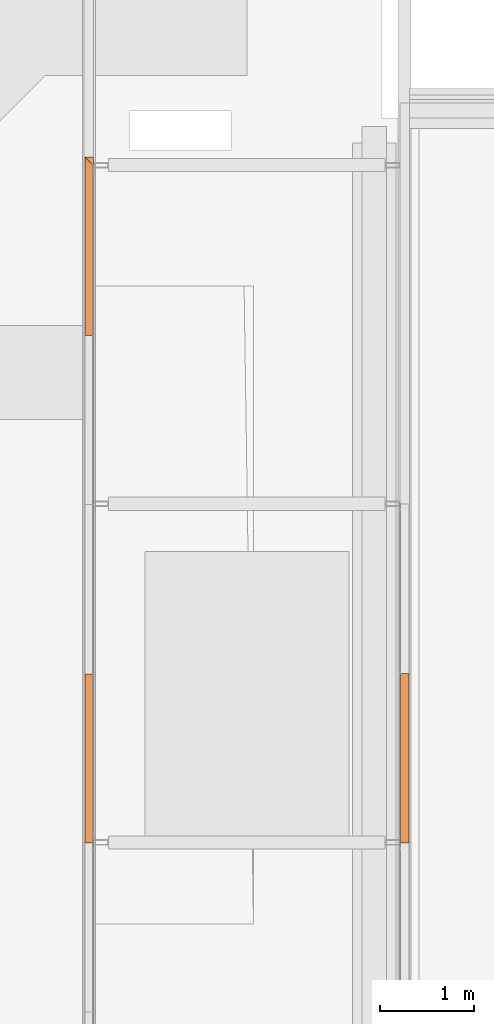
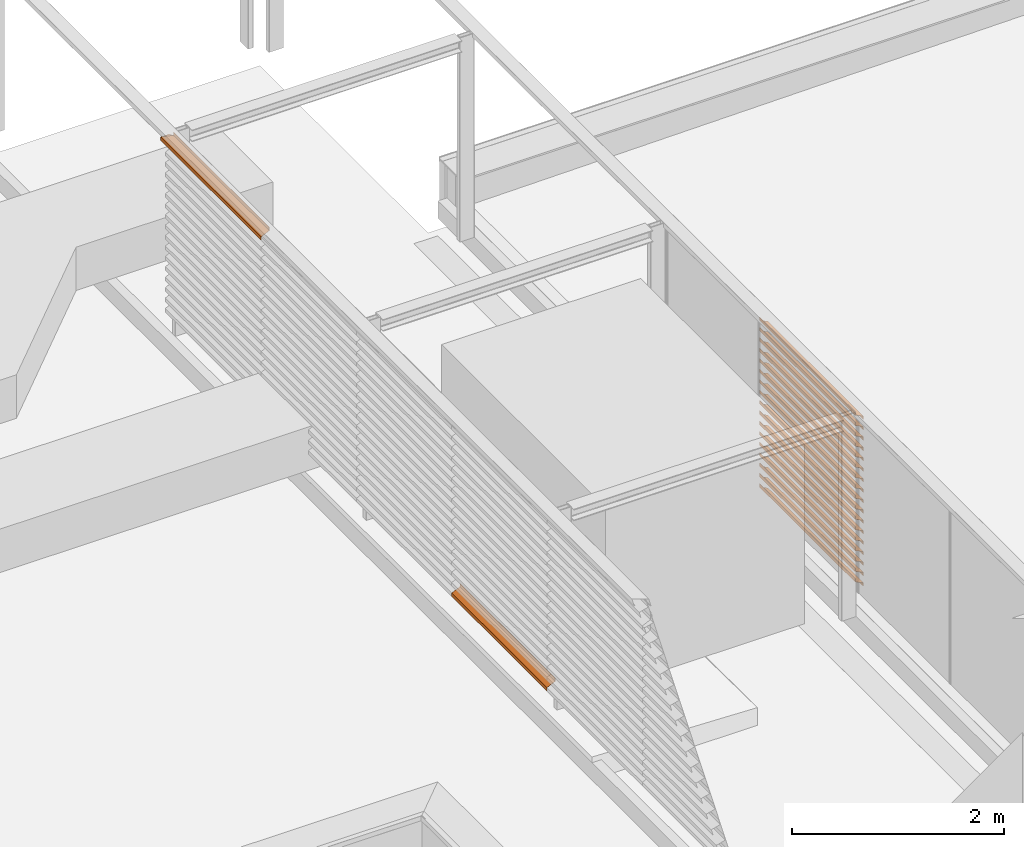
# One storey, part 31 of 32: 19 proxies.
"""IFC2X3 building model written with IfcOpenShell, lengths in millimetres."""

from ifc_helpers import new_model, entity, si_unit, converted_unit, derived_unit, direction, frame, origin, place, context, subcontext, project, spatial, faceted_brep, type_object, element, save


model = new_model("IFC2X3")

# Units and contexts
model_context = context("Model", 3, precision=0.01, world=origin(), true_north=direction((6.123031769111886e-17, 1.0)))
body_context = subcontext(model_context, "Body", "Model", "MODEL_VIEW")
ifc_project = project(units=[si_unit("LENGTHUNIT", "METRE", prefix="MILLI"), si_unit("AREAUNIT", "SQUARE_METRE"), si_unit("VOLUMEUNIT", "CUBIC_METRE"), converted_unit("PLANEANGLEUNIT", "DEGREE", entity("IfcRatioMeasure", 0.017453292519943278), si_unit("PLANEANGLEUNIT", "RADIAN"), dimensions=[0, 0, 0, 0, 0, 0, 0]), si_unit("MASSUNIT", "GRAM", prefix="KILO"), derived_unit("MASSDENSITYUNIT", [(si_unit("MASSUNIT", "GRAM", prefix="KILO"), 1), (si_unit("LENGTHUNIT", "METRE"), -3)]), derived_unit("IONCONCENTRATIONUNIT", [(si_unit("MASSUNIT", "GRAM", prefix="KILO"), 1), (si_unit("LENGTHUNIT", "METRE"), -3)]), derived_unit("MOMENTOFINERTIAUNIT", [(si_unit("LENGTHUNIT", "METRE"), 4)]), si_unit("TIMEUNIT", "SECOND"), si_unit("FREQUENCYUNIT", "HERTZ"), si_unit("THERMODYNAMICTEMPERATUREUNIT", "DEGREE_CELSIUS"), derived_unit("THERMALTRANSMITTANCEUNIT", [(si_unit("MASSUNIT", "GRAM", prefix="KILO"), 1), (si_unit("THERMODYNAMICTEMPERATUREUNIT", "KELVIN"), -1), (si_unit("TIMEUNIT", "SECOND"), -3)]), derived_unit("THERMALCONDUCTANCEUNIT", [(si_unit("MASSUNIT", "GRAM", prefix="KILO"), 1), (si_unit("THERMODYNAMICTEMPERATUREUNIT", "KELVIN"), -1), (si_unit("TIMEUNIT", "SECOND"), -3), (si_unit("LENGTHUNIT", "METRE"), 1)]), derived_unit("VOLUMETRICFLOWRATEUNIT", [(si_unit("LENGTHUNIT", "METRE"), 3), (si_unit("TIMEUNIT", "SECOND"), -1)]), derived_unit("MASSFLOWRATEUNIT", [(si_unit("MASSUNIT", "GRAM", prefix="KILO"), 1), (si_unit("TIMEUNIT", "SECOND"), -1)]), derived_unit("ROTATIONALFREQUENCYUNIT", [(si_unit("TIMEUNIT", "SECOND"), -1)]), si_unit("ELECTRICCURRENTUNIT", "AMPERE"), si_unit("ELECTRICVOLTAGEUNIT", "VOLT"), si_unit("POWERUNIT", "WATT"), si_unit("FORCEUNIT", "NEWTON", prefix="KILO"), si_unit("ILLUMINANCEUNIT", "LUX"), si_unit("LUMINOUSFLUXUNIT", "LUMEN"), si_unit("LUMINOUSINTENSITYUNIT", "CANDELA"), derived_unit("USERDEFINED", [(si_unit("MASSUNIT", "GRAM", prefix="KILO"), -1), (si_unit("LENGTHUNIT", "METRE"), -2), (si_unit("TIMEUNIT", "SECOND"), 3), (si_unit("LUMINOUSFLUXUNIT", "LUMEN"), 1)]), derived_unit("USERDEFINED", [(si_unit("MASSUNIT", "GRAM", prefix="KILO"), 1), (si_unit("TIMEUNIT", "SECOND"), -3), (si_unit("LENGTHUNIT", "METRE"), 3), (si_unit("ELECTRICCURRENTUNIT", "AMPERE"), -2)]), derived_unit("SOUNDPOWERUNIT", [(si_unit("MASSUNIT", "GRAM", prefix="KILO"), 1), (si_unit("TIMEUNIT", "SECOND"), -3), (si_unit("LENGTHUNIT", "METRE"), 2)]), derived_unit("SOUNDPRESSUREUNIT", [(si_unit("MASSUNIT", "GRAM", prefix="KILO"), 1), (si_unit("LENGTHUNIT", "METRE"), -1), (si_unit("TIMEUNIT", "SECOND"), -2)]), derived_unit("LINEARVELOCITYUNIT", [(si_unit("LENGTHUNIT", "METRE"), 1), (si_unit("TIMEUNIT", "SECOND"), -1)]), si_unit("PRESSUREUNIT", "PASCAL"), derived_unit("USERDEFINED", [(si_unit("MASSUNIT", "GRAM", prefix="KILO"), 1), (si_unit("LENGTHUNIT", "METRE"), -2), (si_unit("TIMEUNIT", "SECOND"), -2)]), derived_unit("LINEARFORCEUNIT", [(si_unit("MASSUNIT", "GRAM", prefix="KILO"), 1), (si_unit("TIMEUNIT", "SECOND"), -2)]), derived_unit("PLANARFORCEUNIT", [(si_unit("MASSUNIT", "GRAM", prefix="KILO"), 1), (si_unit("LENGTHUNIT", "METRE"), -1), (si_unit("TIMEUNIT", "SECOND"), -2)]), derived_unit("SPECIFICHEATCAPACITYUNIT", [(si_unit("THERMODYNAMICTEMPERATUREUNIT", "KELVIN"), -1), (si_unit("LENGTHUNIT", "METRE"), 2), (si_unit("TIMEUNIT", "SECOND"), -2)]), derived_unit("HEATINGVALUEUNIT", [(si_unit("LENGTHUNIT", "METRE"), 2), (si_unit("TIMEUNIT", "SECOND"), -2)]), derived_unit("VAPORPERMEABILITYUNIT", [(si_unit("LENGTHUNIT", "METRE"), -1), (si_unit("TIMEUNIT", "SECOND"), 1)]), derived_unit("DYNAMICVISCOSITYUNIT", [(si_unit("MASSUNIT", "GRAM", prefix="KILO"), 1), (si_unit("TIMEUNIT", "SECOND"), -1), (si_unit("LENGTHUNIT", "METRE"), -1)]), derived_unit("THERMALEXPANSIONCOEFFICIENTUNIT", [(si_unit("THERMODYNAMICTEMPERATUREUNIT", "KELVIN"), -1)]), derived_unit("MODULUSOFELASTICITYUNIT", [(si_unit("MASSUNIT", "GRAM", prefix="KILO"), 1), (si_unit("LENGTHUNIT", "METRE"), -1), (si_unit("TIMEUNIT", "SECOND"), -2)]), derived_unit("ISOTHERMALMOISTURECAPACITYUNIT", [(si_unit("LENGTHUNIT", "METRE"), 3), (si_unit("MASSUNIT", "GRAM", prefix="KILO"), -1)]), derived_unit("MOISTUREDIFFUSIVITYUNIT", [(si_unit("TIMEUNIT", "SECOND"), -1), (si_unit("LENGTHUNIT", "METRE"), 2)])], contexts=[model_context])

# Site, building, storey
site_placement = place(None, frame((0.0, 300.0, 0.0)))
site = spatial("IfcSite", under=ifc_project, at=site_placement, Name="<Kadastrale nummers>", CompositionType="ELEMENT")
building_placement = place(site_placement, origin())
building = spatial("IfcBuilding", under=site, at=building_placement, CompositionType="ELEMENT")
storey_placement = place(building_placement, frame((0.0, 0.0, 7150.000035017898)))
storey = spatial("IfcBuildingStorey", under=building, at=storey_placement, Name="02 tweede verdieping", CompositionType="ELEMENT", Elevation=7150.000035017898)

# Proxies
building_element_proxy_type_1 = type_object("IfcBuildingElementProxyType", Name="6287125", PredefinedType="NOTDEFINED")
proxy_1_placement = place(storey_placement, frame((38322.0, 44387.49999984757, 2420.0)))
element("IfcBuildingElementProxy", 1, at=proxy_1_placement, inside=storey, type_object=building_element_proxy_type_1, Name="6287125", context=body_context, shape_type="Brep", body=[
    faceted_brep([(0.0, 0.0, 40.0), (0.0, 0.0, 0.0), (2.0, 0.0, 1.3490170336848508), (2.0, 0.0, 38.725859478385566), (90.0, 0.0, 79.7609333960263), (90.0, 0.0, 120.0), (88.0, 0.0, 120.0), (88.0, 0.0, 81.03507391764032), (88.0, 1809.500000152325, 81.03507391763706), (0.0, 1897.5000001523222, 40.0), (88.0, 1809.5000001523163, 120.0), (90.0, 1807.5000001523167, 120.0), (90.0, 1807.5000001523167, 79.7609333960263), (2.0, 1895.5000001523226, 38.725859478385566), (2.0, 1895.5000001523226, 1.3490170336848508), (0.0, 1897.5000001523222, 0.0), (91.0, 1897.5000001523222, 40.0), (91.0, 1809.5000001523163, 81.0350739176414), (91.0, 1809.5000001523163, 120.0), (91.0, 1807.5000001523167, 120.0), (91.0, 1807.5000001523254, 79.76093339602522), (91.0, 1895.5000001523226, 38.72585947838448), (91.0, 1895.5000001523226, 1.3490170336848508), (91.0, 1897.5000001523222, 0.0)], [[[0, 1, 2, 3, 4, 5, 6, 7]], [[0, 7, 8, 9]], [[7, 6, 10, 8]], [[6, 5, 11, 10]], [[5, 4, 12, 11]], [[4, 3, 13, 12]], [[3, 2, 14, 13]], [[2, 1, 15, 14]], [[1, 0, 9, 15]], [[16, 17, 18, 19, 20, 21, 22, 23]], [[15, 9, 16, 23]], [[14, 15, 23, 22]], [[13, 14, 22, 21]], [[12, 13, 21, 20]], [[11, 12, 20, 19]], [[10, 11, 19, 18]], [[8, 10, 18, 17]], [[9, 8, 17, 16]]]),
])
building_element_proxy_type_2 = type_object("IfcBuildingElementProxyType", Name="6287239", PredefinedType="NOTDEFINED")
proxy_2_placement = place(storey_placement, frame((38322.0, 38995.0, 500.0)))
element("IfcBuildingElementProxy", 2, at=proxy_2_placement, inside=storey, type_object=building_element_proxy_type_2, Name="6287239", context=body_context, shape_type="Brep", body=[
    faceted_brep([(0.0, 0.0, 40.0), (0.0, 0.0, 0.0), (2.0, 0.0, 1.3490170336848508), (2.0, 0.0, 38.725859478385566), (90.0, 0.0, 79.7609333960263), (90.0, 0.0, 120.0), (88.0, 0.0, 120.0), (88.0, 0.0, 81.03507391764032), (0.0, 1797.5000001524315, 40.0), (88.0, 1797.5000001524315, 81.03507391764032), (88.0, 1797.5000001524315, 120.0), (90.0, 1797.5000001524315, 120.0), (90.0, 1797.5000001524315, 79.76093339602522), (2.0, 1797.5000001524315, 38.72585947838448), (2.0, 1797.5000001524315, 1.3490170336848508), (0.0, 1797.5000001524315, 0.0)], [[[0, 1, 2, 3, 4, 5, 6, 7]], [[8, 9, 10, 11, 12, 13, 14, 15]], [[0, 7, 9, 8]], [[7, 6, 10, 9]], [[6, 5, 11, 10]], [[5, 4, 12, 11]], [[4, 3, 13, 12]], [[3, 2, 14, 13]], [[2, 1, 15, 14]], [[1, 0, 8, 15]]]),
])
building_element_proxy_type_3 = type_object("IfcBuildingElementProxyType", Name="6605324", PredefinedType="NOTDEFINED")
proxy_3_placement = place(storey_placement, frame((41678.0, 38995.0, 2420.0)))
element("IfcBuildingElementProxy", 3, at=proxy_3_placement, inside=storey, type_object=building_element_proxy_type_3, Name="6605324", context=body_context, shape_type="Brep", body=[
    faceted_brep([(90.0, 0.0, 40.0), (2.0, 0.0, 81.0350739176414), (2.0, 0.0, 120.0), (0.0, 0.0, 120.0), (0.0, 0.0, 79.76093339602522), (88.0, 0.0, 38.72585947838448), (88.0, 0.0, 1.3490170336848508), (90.0, 0.0, 0.0), (90.0, 1802.4999999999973, 40.0), (90.0, 1802.4999999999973, 0.0), (88.0, 1802.4999999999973, 1.3490170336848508), (88.0, 1802.4999999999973, 38.725859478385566), (0.0, 1802.4999999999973, 79.7609333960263), (0.0, 1802.4999999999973, 120.0), (2.0, 1802.4999999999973, 120.0), (2.0, 1802.4999999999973, 81.03507391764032)], [[[0, 1, 2, 3, 4, 5, 6, 7]], [[8, 9, 10, 11, 12, 13, 14, 15]], [[1, 0, 8, 15]], [[2, 1, 15, 14]], [[3, 2, 14, 13]], [[4, 3, 13, 12]], [[5, 4, 12, 11]], [[6, 5, 11, 10]], [[7, 6, 10, 9]], [[0, 7, 9, 8]]]),
])
building_element_proxy_type_4 = type_object("IfcBuildingElementProxyType", Name="6605325", PredefinedType="NOTDEFINED")
proxy_4_placement = place(storey_placement, frame((41678.0, 38995.0, 2300.0)))
element("IfcBuildingElementProxy", 4, at=proxy_4_placement, inside=storey, type_object=building_element_proxy_type_4, Name="6605325", context=body_context, shape_type="Brep", body=[
    faceted_brep([(90.0, 0.0, 40.0), (2.0, 0.0, 81.03507391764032), (2.0, 0.0, 120.0), (0.0, 0.0, 120.0), (0.0, 0.0, 79.76093339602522), (88.0, 0.0, 38.72585947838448), (88.0, 0.0, 1.3490170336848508), (90.0, 0.0, 0.0), (90.0, 1802.4999999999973, 40.0), (90.0, 1802.4999999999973, 0.0), (88.0, 1802.4999999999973, 1.3490170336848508), (88.0, 1802.4999999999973, 38.725859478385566), (0.0, 1802.4999999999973, 79.7609333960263), (0.0, 1802.4999999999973, 120.0), (2.0, 1802.4999999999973, 120.0), (2.0, 1802.4999999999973, 81.03507391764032)], [[[0, 1, 2, 3, 4, 5, 6, 7]], [[8, 9, 10, 11, 12, 13, 14, 15]], [[1, 0, 8, 15]], [[2, 1, 15, 14]], [[3, 2, 14, 13]], [[4, 3, 13, 12]], [[5, 4, 12, 11]], [[6, 5, 11, 10]], [[7, 6, 10, 9]], [[0, 7, 9, 8]]]),
])
building_element_proxy_type_5 = type_object("IfcBuildingElementProxyType", Name="6605326", PredefinedType="NOTDEFINED")
proxy_5_placement = place(storey_placement, frame((41678.0, 38995.0, 2180.0)))
element("IfcBuildingElementProxy", 5, at=proxy_5_placement, inside=storey, type_object=building_element_proxy_type_5, Name="6605326", context=body_context, shape_type="Brep", body=[
    faceted_brep([(90.0, 0.0, 40.0), (2.0, 0.0, 81.0350739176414), (2.0, 0.0, 120.0), (0.0, 0.0, 120.0), (0.0, 0.0, 79.76093339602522), (88.0, 0.0, 38.72585947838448), (88.0, 0.0, 1.3490170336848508), (90.0, 0.0, 0.0), (90.0, 1802.4999999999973, 40.0), (90.0, 1802.4999999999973, 0.0), (88.0, 1802.4999999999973, 1.3490170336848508), (88.0, 1802.4999999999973, 38.725859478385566), (0.0, 1802.4999999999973, 79.7609333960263), (0.0, 1802.4999999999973, 120.0), (2.0, 1802.4999999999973, 120.0), (2.0, 1802.4999999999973, 81.03507391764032)], [[[0, 1, 2, 3, 4, 5, 6, 7]], [[8, 9, 10, 11, 12, 13, 14, 15]], [[1, 0, 8, 15]], [[2, 1, 15, 14]], [[3, 2, 14, 13]], [[4, 3, 13, 12]], [[5, 4, 12, 11]], [[6, 5, 11, 10]], [[7, 6, 10, 9]], [[0, 7, 9, 8]]]),
])
building_element_proxy_type_6 = type_object("IfcBuildingElementProxyType", Name="6605327", PredefinedType="NOTDEFINED")
proxy_6_placement = place(storey_placement, frame((41678.0, 38995.0, 2060.0)))
element("IfcBuildingElementProxy", 6, at=proxy_6_placement, inside=storey, type_object=building_element_proxy_type_6, Name="6605327", context=body_context, shape_type="Brep", body=[
    faceted_brep([(90.0, 0.0, 40.0), (2.0, 0.0, 81.0350739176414), (2.0, 0.0, 120.0), (0.0, 0.0, 120.0), (0.0, 0.0, 79.76093339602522), (88.0, 0.0, 38.72585947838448), (88.0, 0.0, 1.3490170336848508), (90.0, 0.0, 0.0), (90.0, 1802.4999999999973, 40.0), (90.0, 1802.4999999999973, 0.0), (88.0, 1802.4999999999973, 1.3490170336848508), (88.0, 1802.4999999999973, 38.725859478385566), (0.0, 1802.4999999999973, 79.7609333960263), (0.0, 1802.4999999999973, 120.0), (2.0, 1802.4999999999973, 120.0), (2.0, 1802.4999999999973, 81.03507391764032)], [[[0, 1, 2, 3, 4, 5, 6, 7]], [[8, 9, 10, 11, 12, 13, 14, 15]], [[1, 0, 8, 15]], [[2, 1, 15, 14]], [[3, 2, 14, 13]], [[4, 3, 13, 12]], [[5, 4, 12, 11]], [[6, 5, 11, 10]], [[7, 6, 10, 9]], [[0, 7, 9, 8]]]),
])
building_element_proxy_type_7 = type_object("IfcBuildingElementProxyType", Name="6605328", PredefinedType="NOTDEFINED")
proxy_7_placement = place(storey_placement, frame((41678.0, 38995.0, 1940.0)))
element("IfcBuildingElementProxy", 7, at=proxy_7_placement, inside=storey, type_object=building_element_proxy_type_7, Name="6605328", context=body_context, shape_type="Brep", body=[
    faceted_brep([(90.0, 0.0, 40.0), (2.0, 0.0, 81.0350739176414), (2.0, 0.0, 120.0), (0.0, 0.0, 120.0), (0.0, 0.0, 79.76093339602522), (88.0, 0.0, 38.72585947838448), (88.0, 0.0, 1.3490170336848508), (90.0, 0.0, 0.0), (90.0, 1802.4999999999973, 40.0), (90.0, 1802.4999999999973, 0.0), (88.0, 1802.4999999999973, 1.3490170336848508), (88.0, 1802.4999999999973, 38.725859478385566), (0.0, 1802.4999999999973, 79.7609333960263), (0.0, 1802.4999999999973, 120.0), (2.0, 1802.4999999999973, 120.0), (2.0, 1802.4999999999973, 81.03507391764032)], [[[0, 1, 2, 3, 4, 5, 6, 7]], [[8, 9, 10, 11, 12, 13, 14, 15]], [[1, 0, 8, 15]], [[2, 1, 15, 14]], [[3, 2, 14, 13]], [[4, 3, 13, 12]], [[5, 4, 12, 11]], [[6, 5, 11, 10]], [[7, 6, 10, 9]], [[0, 7, 9, 8]]]),
])
building_element_proxy_type_8 = type_object("IfcBuildingElementProxyType", Name="6605329", PredefinedType="NOTDEFINED")
proxy_8_placement = place(storey_placement, frame((41678.0, 38995.0, 1820.0)))
element("IfcBuildingElementProxy", 8, at=proxy_8_placement, inside=storey, type_object=building_element_proxy_type_8, Name="6605329", context=body_context, shape_type="Brep", body=[
    faceted_brep([(90.0, 0.0, 40.0), (2.0, 0.0, 81.0350739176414), (2.0, 0.0, 120.0), (0.0, 0.0, 120.0), (0.0, 0.0, 79.76093339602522), (88.0, 0.0, 38.72585947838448), (88.0, 0.0, 1.3490170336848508), (90.0, 0.0, 0.0), (90.0, 1802.4999999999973, 40.0), (90.0, 1802.4999999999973, 0.0), (88.0, 1802.4999999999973, 1.3490170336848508), (88.0, 1802.4999999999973, 38.725859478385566), (0.0, 1802.4999999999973, 79.7609333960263), (0.0, 1802.4999999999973, 120.0), (2.0, 1802.4999999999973, 120.0), (2.0, 1802.4999999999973, 81.03507391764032)], [[[0, 1, 2, 3, 4, 5, 6, 7]], [[8, 9, 10, 11, 12, 13, 14, 15]], [[1, 0, 8, 15]], [[2, 1, 15, 14]], [[3, 2, 14, 13]], [[4, 3, 13, 12]], [[5, 4, 12, 11]], [[6, 5, 11, 10]], [[7, 6, 10, 9]], [[0, 7, 9, 8]]]),
])
building_element_proxy_type_9 = type_object("IfcBuildingElementProxyType", Name="6605330", PredefinedType="NOTDEFINED")
proxy_9_placement = place(storey_placement, frame((41678.0, 38995.0, 1700.0)))
element("IfcBuildingElementProxy", 9, at=proxy_9_placement, inside=storey, type_object=building_element_proxy_type_9, Name="6605330", context=body_context, shape_type="Brep", body=[
    faceted_brep([(90.0, 0.0, 40.0), (2.0, 0.0, 81.03507391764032), (2.0, 0.0, 120.0), (0.0, 0.0, 120.0), (0.0, 0.0, 79.76093339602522), (88.0, 0.0, 38.72585947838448), (88.0, 0.0, 1.3490170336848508), (90.0, 0.0, 0.0), (90.0, 1802.4999999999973, 40.0), (90.0, 1802.4999999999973, 0.0), (88.0, 1802.4999999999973, 1.3490170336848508), (88.0, 1802.4999999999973, 38.725859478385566), (0.0, 1802.4999999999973, 79.7609333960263), (0.0, 1802.4999999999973, 120.0), (2.0, 1802.4999999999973, 120.0), (2.0, 1802.4999999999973, 81.03507391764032)], [[[0, 1, 2, 3, 4, 5, 6, 7]], [[8, 9, 10, 11, 12, 13, 14, 15]], [[1, 0, 8, 15]], [[2, 1, 15, 14]], [[3, 2, 14, 13]], [[4, 3, 13, 12]], [[5, 4, 12, 11]], [[6, 5, 11, 10]], [[7, 6, 10, 9]], [[0, 7, 9, 8]]]),
])
building_element_proxy_type_10 = type_object("IfcBuildingElementProxyType", Name="6605331", PredefinedType="NOTDEFINED")
proxy_10_placement = place(storey_placement, frame((41678.0, 38995.0, 1580.0)))
element("IfcBuildingElementProxy", 10, at=proxy_10_placement, inside=storey, type_object=building_element_proxy_type_10, Name="6605331", context=body_context, shape_type="Brep", body=[
    faceted_brep([(90.0, 0.0, 40.0), (2.0, 0.0, 81.0350739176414), (2.0, 0.0, 120.0), (0.0, 0.0, 120.0), (0.0, 0.0, 79.76093339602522), (88.0, 0.0, 38.72585947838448), (88.0, 0.0, 1.3490170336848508), (90.0, 0.0, 0.0), (90.0, 1802.4999999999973, 40.0), (90.0, 1802.4999999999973, 0.0), (88.0, 1802.4999999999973, 1.3490170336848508), (88.0, 1802.4999999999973, 38.725859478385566), (0.0, 1802.4999999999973, 79.7609333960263), (0.0, 1802.4999999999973, 120.0), (2.0, 1802.4999999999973, 120.0), (2.0, 1802.4999999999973, 81.03507391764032)], [[[0, 1, 2, 3, 4, 5, 6, 7]], [[8, 9, 10, 11, 12, 13, 14, 15]], [[1, 0, 8, 15]], [[2, 1, 15, 14]], [[3, 2, 14, 13]], [[4, 3, 13, 12]], [[5, 4, 12, 11]], [[6, 5, 11, 10]], [[7, 6, 10, 9]], [[0, 7, 9, 8]]]),
])
building_element_proxy_type_11 = type_object("IfcBuildingElementProxyType", Name="6605332", PredefinedType="NOTDEFINED")
proxy_11_placement = place(storey_placement, frame((41678.0, 38995.0, 1460.0)))
element("IfcBuildingElementProxy", 11, at=proxy_11_placement, inside=storey, type_object=building_element_proxy_type_11, Name="6605332", context=body_context, shape_type="Brep", body=[
    faceted_brep([(90.0, 0.0, 40.0), (2.0, 0.0, 81.03507391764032), (2.0, 0.0, 120.0), (0.0, 0.0, 120.0), (0.0, 0.0, 79.76093339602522), (88.0, 0.0, 38.72585947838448), (88.0, 0.0, 1.3490170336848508), (90.0, 0.0, 0.0), (90.0, 1802.4999999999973, 40.0), (90.0, 1802.4999999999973, 0.0), (88.0, 1802.4999999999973, 1.3490170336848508), (88.0, 1802.4999999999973, 38.725859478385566), (0.0, 1802.4999999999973, 79.7609333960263), (0.0, 1802.4999999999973, 120.0), (2.0, 1802.4999999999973, 120.0), (2.0, 1802.4999999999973, 81.03507391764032)], [[[0, 1, 2, 3, 4, 5, 6, 7]], [[8, 9, 10, 11, 12, 13, 14, 15]], [[1, 0, 8, 15]], [[2, 1, 15, 14]], [[3, 2, 14, 13]], [[4, 3, 13, 12]], [[5, 4, 12, 11]], [[6, 5, 11, 10]], [[7, 6, 10, 9]], [[0, 7, 9, 8]]]),
])
building_element_proxy_type_12 = type_object("IfcBuildingElementProxyType", Name="6605333", PredefinedType="NOTDEFINED")
proxy_12_placement = place(storey_placement, frame((41678.0, 38995.0, 1340.0)))
element("IfcBuildingElementProxy", 12, at=proxy_12_placement, inside=storey, type_object=building_element_proxy_type_12, Name="6605333", context=body_context, shape_type="Brep", body=[
    faceted_brep([(90.0, 0.0, 40.0), (2.0, 0.0, 81.0350739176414), (2.0, 0.0, 120.0), (0.0, 0.0, 120.0), (0.0, 0.0, 79.76093339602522), (88.0, 0.0, 38.72585947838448), (88.0, 0.0, 1.3490170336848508), (90.0, 0.0, 0.0), (90.0, 1802.4999999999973, 40.0), (90.0, 1802.4999999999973, 0.0), (88.0, 1802.4999999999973, 1.3490170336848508), (88.0, 1802.4999999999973, 38.725859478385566), (0.0, 1802.4999999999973, 79.7609333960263), (0.0, 1802.4999999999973, 120.0), (2.0, 1802.4999999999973, 120.0), (2.0, 1802.4999999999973, 81.03507391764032)], [[[0, 1, 2, 3, 4, 5, 6, 7]], [[8, 9, 10, 11, 12, 13, 14, 15]], [[1, 0, 8, 15]], [[2, 1, 15, 14]], [[3, 2, 14, 13]], [[4, 3, 13, 12]], [[5, 4, 12, 11]], [[6, 5, 11, 10]], [[7, 6, 10, 9]], [[0, 7, 9, 8]]]),
])
building_element_proxy_type_13 = type_object("IfcBuildingElementProxyType", Name="6605334", PredefinedType="NOTDEFINED")
proxy_13_placement = place(storey_placement, frame((41678.0, 38995.0, 1220.0)))
element("IfcBuildingElementProxy", 13, at=proxy_13_placement, inside=storey, type_object=building_element_proxy_type_13, Name="6605334", context=body_context, shape_type="Brep", body=[
    faceted_brep([(90.0, 0.0, 40.0), (2.0, 0.0, 81.0350739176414), (2.0, 0.0, 120.0), (0.0, 0.0, 120.0), (0.0, 0.0, 79.76093339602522), (88.0, 0.0, 38.72585947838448), (88.0, 0.0, 1.3490170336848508), (90.0, 0.0, 0.0), (90.0, 1802.4999999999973, 40.0), (90.0, 1802.4999999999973, 0.0), (88.0, 1802.4999999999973, 1.3490170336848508), (88.0, 1802.4999999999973, 38.725859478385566), (0.0, 1802.4999999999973, 79.7609333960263), (0.0, 1802.4999999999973, 120.0), (2.0, 1802.4999999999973, 120.0), (2.0, 1802.4999999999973, 81.03507391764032)], [[[0, 1, 2, 3, 4, 5, 6, 7]], [[8, 9, 10, 11, 12, 13, 14, 15]], [[1, 0, 8, 15]], [[2, 1, 15, 14]], [[3, 2, 14, 13]], [[4, 3, 13, 12]], [[5, 4, 12, 11]], [[6, 5, 11, 10]], [[7, 6, 10, 9]], [[0, 7, 9, 8]]]),
])
building_element_proxy_type_14 = type_object("IfcBuildingElementProxyType", Name="6605335", PredefinedType="NOTDEFINED")
proxy_14_placement = place(storey_placement, frame((41678.0, 38995.0, 1100.0)))
element("IfcBuildingElementProxy", 14, at=proxy_14_placement, inside=storey, type_object=building_element_proxy_type_14, Name="6605335", context=body_context, shape_type="Brep", body=[
    faceted_brep([(90.0, 0.0, 40.0), (2.0, 0.0, 81.03507391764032), (2.0, 0.0, 120.0), (0.0, 0.0, 120.0), (0.0, 0.0, 79.76093339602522), (88.0, 0.0, 38.72585947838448), (88.0, 0.0, 1.3490170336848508), (90.0, 0.0, 0.0), (90.0, 1802.4999999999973, 40.0), (90.0, 1802.4999999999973, 0.0), (88.0, 1802.4999999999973, 1.3490170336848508), (88.0, 1802.4999999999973, 38.725859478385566), (0.0, 1802.4999999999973, 79.7609333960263), (0.0, 1802.4999999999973, 120.0), (2.0, 1802.4999999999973, 120.0), (2.0, 1802.4999999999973, 81.03507391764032)], [[[0, 1, 2, 3, 4, 5, 6, 7]], [[8, 9, 10, 11, 12, 13, 14, 15]], [[1, 0, 8, 15]], [[2, 1, 15, 14]], [[3, 2, 14, 13]], [[4, 3, 13, 12]], [[5, 4, 12, 11]], [[6, 5, 11, 10]], [[7, 6, 10, 9]], [[0, 7, 9, 8]]]),
])
building_element_proxy_type_15 = type_object("IfcBuildingElementProxyType", Name="6605336", PredefinedType="NOTDEFINED")
proxy_15_placement = place(storey_placement, frame((41678.0, 38995.0, 980.0)))
element("IfcBuildingElementProxy", 15, at=proxy_15_placement, inside=storey, type_object=building_element_proxy_type_15, Name="6605336", context=body_context, shape_type="Brep", body=[
    faceted_brep([(90.0, 0.0, 40.0), (2.0, 0.0, 81.0350739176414), (2.0, 0.0, 120.0), (0.0, 0.0, 120.0), (0.0, 0.0, 79.76093339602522), (88.0, 0.0, 38.72585947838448), (88.0, 0.0, 1.3490170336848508), (90.0, 0.0, 0.0), (90.0, 1802.4999999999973, 40.0), (90.0, 1802.4999999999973, 0.0), (88.0, 1802.4999999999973, 1.3490170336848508), (88.0, 1802.4999999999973, 38.725859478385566), (0.0, 1802.4999999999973, 79.7609333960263), (0.0, 1802.4999999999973, 120.0), (2.0, 1802.4999999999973, 120.0), (2.0, 1802.4999999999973, 81.03507391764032)], [[[0, 1, 2, 3, 4, 5, 6, 7]], [[8, 9, 10, 11, 12, 13, 14, 15]], [[1, 0, 8, 15]], [[2, 1, 15, 14]], [[3, 2, 14, 13]], [[4, 3, 13, 12]], [[5, 4, 12, 11]], [[6, 5, 11, 10]], [[7, 6, 10, 9]], [[0, 7, 9, 8]]]),
])
building_element_proxy_type_16 = type_object("IfcBuildingElementProxyType", Name="6605337", PredefinedType="NOTDEFINED")
proxy_16_placement = place(storey_placement, frame((41678.0, 38995.0, 860.0)))
element("IfcBuildingElementProxy", 16, at=proxy_16_placement, inside=storey, type_object=building_element_proxy_type_16, Name="6605337", context=body_context, shape_type="Brep", body=[
    faceted_brep([(90.0, 0.0, 40.0), (2.0, 0.0, 81.03507391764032), (2.0, 0.0, 120.0), (0.0, 0.0, 120.0), (0.0, 0.0, 79.76093339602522), (88.0, 0.0, 38.72585947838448), (88.0, 0.0, 1.3490170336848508), (90.0, 0.0, 0.0), (90.0, 1802.4999999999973, 40.0), (90.0, 1802.4999999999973, 0.0), (88.0, 1802.4999999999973, 1.3490170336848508), (88.0, 1802.4999999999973, 38.725859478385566), (0.0, 1802.4999999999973, 79.7609333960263), (0.0, 1802.4999999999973, 120.0), (2.0, 1802.4999999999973, 120.0), (2.0, 1802.4999999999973, 81.03507391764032)], [[[0, 1, 2, 3, 4, 5, 6, 7]], [[8, 9, 10, 11, 12, 13, 14, 15]], [[1, 0, 8, 15]], [[2, 1, 15, 14]], [[3, 2, 14, 13]], [[4, 3, 13, 12]], [[5, 4, 12, 11]], [[6, 5, 11, 10]], [[7, 6, 10, 9]], [[0, 7, 9, 8]]]),
])
building_element_proxy_type_17 = type_object("IfcBuildingElementProxyType", Name="6605338", PredefinedType="NOTDEFINED")
proxy_17_placement = place(storey_placement, frame((41678.0, 38995.0, 740.0)))
element("IfcBuildingElementProxy", 17, at=proxy_17_placement, inside=storey, type_object=building_element_proxy_type_17, Name="6605338", context=body_context, shape_type="Brep", body=[
    faceted_brep([(90.0, 0.0, 40.0), (2.0, 0.0, 81.0350739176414), (2.0, 0.0, 120.0), (0.0, 0.0, 120.0), (0.0, 0.0, 79.76093339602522), (88.0, 0.0, 38.72585947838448), (88.0, 0.0, 1.3490170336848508), (90.0, 0.0, 0.0), (90.0, 1802.4999999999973, 40.0), (90.0, 1802.4999999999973, 0.0), (88.0, 1802.4999999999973, 1.3490170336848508), (88.0, 1802.4999999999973, 38.725859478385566), (0.0, 1802.4999999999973, 79.7609333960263), (0.0, 1802.4999999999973, 120.0), (2.0, 1802.4999999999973, 120.0), (2.0, 1802.4999999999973, 81.03507391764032)], [[[0, 1, 2, 3, 4, 5, 6, 7]], [[8, 9, 10, 11, 12, 13, 14, 15]], [[1, 0, 8, 15]], [[2, 1, 15, 14]], [[3, 2, 14, 13]], [[4, 3, 13, 12]], [[5, 4, 12, 11]], [[6, 5, 11, 10]], [[7, 6, 10, 9]], [[0, 7, 9, 8]]]),
])
building_element_proxy_type_18 = type_object("IfcBuildingElementProxyType", Name="6605339", PredefinedType="NOTDEFINED")
proxy_18_placement = place(storey_placement, frame((41678.0, 38995.0, 620.0)))
element("IfcBuildingElementProxy", 18, at=proxy_18_placement, inside=storey, type_object=building_element_proxy_type_18, Name="6605339", context=body_context, shape_type="Brep", body=[
    faceted_brep([(90.0, 0.0, 40.0), (2.0, 0.0, 81.0350739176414), (2.0, 0.0, 120.0), (0.0, 0.0, 120.0), (0.0, 0.0, 79.76093339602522), (88.0, 0.0, 38.72585947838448), (88.0, 0.0, 1.3490170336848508), (90.0, 0.0, 0.0), (90.0, 1802.4999999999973, 40.0), (90.0, 1802.4999999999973, 0.0), (88.0, 1802.4999999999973, 1.3490170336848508), (88.0, 1802.4999999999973, 38.725859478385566), (0.0, 1802.4999999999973, 79.7609333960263), (0.0, 1802.4999999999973, 120.0), (2.0, 1802.4999999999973, 120.0), (2.0, 1802.4999999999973, 81.03507391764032)], [[[0, 1, 2, 3, 4, 5, 6, 7]], [[8, 9, 10, 11, 12, 13, 14, 15]], [[1, 0, 8, 15]], [[2, 1, 15, 14]], [[3, 2, 14, 13]], [[4, 3, 13, 12]], [[5, 4, 12, 11]], [[6, 5, 11, 10]], [[7, 6, 10, 9]], [[0, 7, 9, 8]]]),
])
building_element_proxy_type_19 = type_object("IfcBuildingElementProxyType", Name="6605340", PredefinedType="NOTDEFINED")
proxy_19_placement = place(storey_placement, frame((41678.0, 38995.0, 500.0)))
element("IfcBuildingElementProxy", 19, at=proxy_19_placement, inside=storey, type_object=building_element_proxy_type_19, Name="6605340", context=body_context, shape_type="Brep", body=[
    faceted_brep([(90.0, 0.0, 40.0), (2.0, 0.0, 81.03507391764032), (2.0, 0.0, 120.0), (0.0, 0.0, 120.0), (0.0, 0.0, 79.76093339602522), (88.0, 0.0, 38.72585947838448), (88.0, 0.0, 1.3490170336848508), (90.0, 0.0, 0.0), (90.0, 1802.4999999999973, 40.0), (90.0, 1802.4999999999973, 0.0), (88.0, 1802.4999999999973, 1.3490170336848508), (88.0, 1802.4999999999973, 38.725859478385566), (0.0, 1802.4999999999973, 79.7609333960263), (0.0, 1802.4999999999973, 120.0), (2.0, 1802.4999999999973, 120.0), (2.0, 1802.4999999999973, 81.03507391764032)], [[[0, 1, 2, 3, 4, 5, 6, 7]], [[8, 9, 10, 11, 12, 13, 14, 15]], [[1, 0, 8, 15]], [[2, 1, 15, 14]], [[3, 2, 14, 13]], [[4, 3, 13, 12]], [[5, 4, 12, 11]], [[6, 5, 11, 10]], [[7, 6, 10, 9]], [[0, 7, 9, 8]]]),
])

save(model, "model.ifc")
